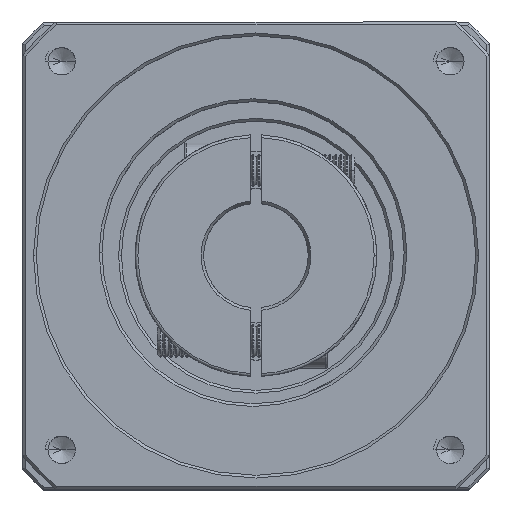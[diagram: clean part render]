
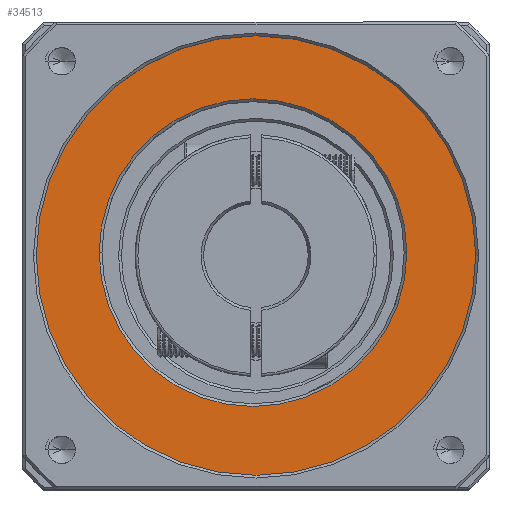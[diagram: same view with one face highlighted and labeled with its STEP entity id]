
A CAD part, top view. The second image highlights one B-rep face of the part: STEP entity #34513.
In plain terms, the highlighted planar face has unit normal (0, 0, 1).
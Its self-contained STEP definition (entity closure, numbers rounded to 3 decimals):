
#113 = ORIENTED_EDGE ( 'NONE', *, *, #83014, .T. ) ;
#973 = CARTESIAN_POINT ( 'NONE',  ( -133.264, 24.596, 19.207 ) ) ;
#9420 = DIRECTION ( 'NONE',  ( 0., 0., 1. ) ) ;
#11192 = EDGE_CURVE ( 'NONE', #18793, #38710, #100242, .T. ) ;
#12685 = CARTESIAN_POINT ( 'NONE',  ( -65.806, 25.131, 19.207 ) ) ;
#13720 = CARTESIAN_POINT ( 'NONE',  ( -93.264, 24.596, 19.207 ) ) ;
#16674 = DIRECTION ( 'NONE',  ( 0., 0., -1. ) ) ;
#18649 = CARTESIAN_POINT ( 'NONE',  ( -121.806, 25.131, 19.207 ) ) ;
#18793 = VERTEX_POINT ( 'NONE', #18649 ) ;
#22237 = DIRECTION ( 'NONE',  ( 1., 0., 0. ) ) ;
#22602 = EDGE_CURVE ( 'NONE', #38710, #18793, #34795, .T. ) ;
#28093 = CARTESIAN_POINT ( 'NONE',  ( -93.264, 24.596, 19.207 ) ) ;
#32861 = AXIS2_PLACEMENT_3D ( 'NONE', #60029, #9420, #68597 ) ;
#34513 = ADVANCED_FACE ( 'NONE', ( #86332, #43815 ), #76759, .T. ) ;
#34795 = CIRCLE ( 'NONE', #100413, 28. ) ;
#35247 = VERTEX_POINT ( 'NONE', #106426 ) ;
#36424 = DIRECTION ( 'NONE',  ( 0., 0., -1. ) ) ;
#36556 = DIRECTION ( 'NONE',  ( 1., 0., 0. ) ) ;
#38710 = VERTEX_POINT ( 'NONE', #12685 ) ;
#43815 = FACE_BOUND ( 'NONE', #57834, .T. ) ;
#44895 = CIRCLE ( 'NONE', #89453, 40. ) ;
#47451 = CIRCLE ( 'NONE', #53622, 40. ) ;
#48184 = ORIENTED_EDGE ( 'NONE', *, *, #22602, .T. ) ;
#53622 = AXIS2_PLACEMENT_3D ( 'NONE', #13720, #72873, #22237 ) ;
#56001 = EDGE_CURVE ( 'NONE', #97893, #35247, #47451, .T. ) ;
#57834 = EDGE_LOOP ( 'NONE', ( #48184, #100304 ) ) ;
#58222 = ORIENTED_EDGE ( 'NONE', *, *, #56001, .T. ) ;
#60029 = CARTESIAN_POINT ( 'NONE',  ( -93.264, 24.596, 19.207 ) ) ;
#67295 = CARTESIAN_POINT ( 'NONE',  ( -93.806, 25.131, 19.207 ) ) ;
#68597 = DIRECTION ( 'NONE',  ( 1., 0., 0. ) ) ;
#72873 = DIRECTION ( 'NONE',  ( 0., 0., 1. ) ) ;
#75839 = DIRECTION ( 'NONE',  ( 1., 0., 0. ) ) ;
#76759 = PLANE ( 'NONE',  #32861 ) ;
#81917 = AXIS2_PLACEMENT_3D ( 'NONE', #87219, #36424, #95688 ) ;
#83014 = EDGE_CURVE ( 'NONE', #35247, #97893, #44895, .T. ) ;
#85547 = EDGE_LOOP ( 'NONE', ( #113, #58222 ) ) ;
#86332 = FACE_OUTER_BOUND ( 'NONE', #85547, .T. ) ;
#87219 = CARTESIAN_POINT ( 'NONE',  ( -93.806, 25.131, 19.207 ) ) ;
#87347 = DIRECTION ( 'NONE',  ( 0., 0., 1. ) ) ;
#89453 = AXIS2_PLACEMENT_3D ( 'NONE', #28093, #87347, #36556 ) ;
#95688 = DIRECTION ( 'NONE',  ( 1., 0., 0. ) ) ;
#97893 = VERTEX_POINT ( 'NONE', #973 ) ;
#100242 = CIRCLE ( 'NONE', #81917, 28. ) ;
#100304 = ORIENTED_EDGE ( 'NONE', *, *, #11192, .T. ) ;
#100413 = AXIS2_PLACEMENT_3D ( 'NONE', #67295, #16674, #75839 ) ;
#106426 = CARTESIAN_POINT ( 'NONE',  ( -53.264, 24.596, 19.207 ) ) ;
